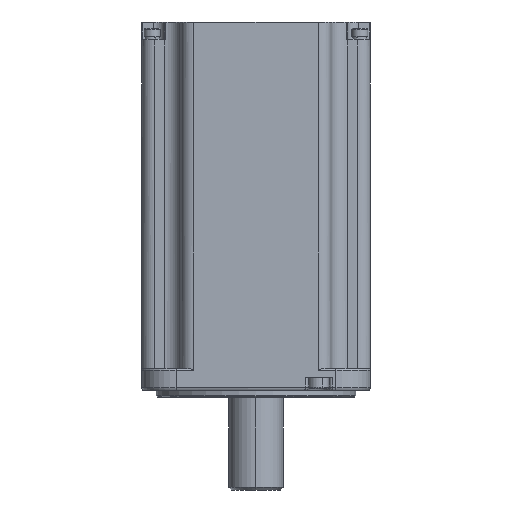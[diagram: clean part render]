
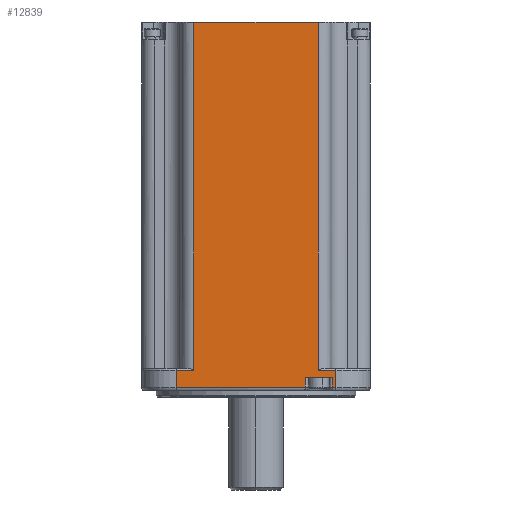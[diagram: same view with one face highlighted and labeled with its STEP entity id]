
A CAD part, front view. The second image highlights one B-rep face of the part: STEP entity #12839.
In plain terms, the highlighted planar face has unit normal (0, -1, 0).
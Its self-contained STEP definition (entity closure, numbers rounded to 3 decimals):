
#335 = DIRECTION ( 'NONE',  ( 0., 1., 0. ) ) ;
#1717 = VECTOR ( 'NONE', #25351, 1000. ) ;
#3555 = CARTESIAN_POINT ( 'NONE',  ( 28., -40., -7.5 ) ) ;
#3683 = VECTOR ( 'NONE', #23236, 1000. ) ;
#3937 = EDGE_CURVE ( 'NONE', #29714, #11195, #8120, .T. ) ;
#4179 = EDGE_CURVE ( 'NONE', #9064, #37598, #35245, .T. ) ;
#4230 = VERTEX_POINT ( 'NONE', #30922 ) ;
#4337 = CARTESIAN_POINT ( 'NONE',  ( 26.742, -40., -1. ) ) ;
#4672 = DIRECTION ( 'NONE',  ( -1., 0., 0. ) ) ;
#4988 = DIRECTION ( 'NONE',  ( 0., 0., -1. ) ) ;
#5925 = ORIENTED_EDGE ( 'NONE', *, *, #7381, .T. ) ;
#6054 = LINE ( 'NONE', #20454, #10509 ) ;
#6218 = CARTESIAN_POINT ( 'NONE',  ( 17.242, -40., -4. ) ) ;
#6500 = DIRECTION ( 'NONE',  ( 1., 0., 0. ) ) ;
#6847 = VECTOR ( 'NONE', #9194, 1000. ) ;
#7381 = EDGE_CURVE ( 'NONE', #17818, #17491, #30352, .T. ) ;
#7534 = ORIENTED_EDGE ( 'NONE', *, *, #21369, .T. ) ;
#7541 = CARTESIAN_POINT ( 'NONE',  ( -21.75, -40., 120.1 ) ) ;
#7948 = CARTESIAN_POINT ( 'NONE',  ( -40., -40., -1.5 ) ) ;
#8120 = LINE ( 'NONE', #4337, #3683 ) ;
#8160 = CARTESIAN_POINT ( 'NONE',  ( 28., -40., -1. ) ) ;
#8288 = VERTEX_POINT ( 'NONE', #6218 ) ;
#9064 = VERTEX_POINT ( 'NONE', #19712 ) ;
#9194 = DIRECTION ( 'NONE',  ( -1., 0., 0. ) ) ;
#9645 = ORIENTED_EDGE ( 'NONE', *, *, #20708, .T. ) ;
#10157 = VECTOR ( 'NONE', #28433, 1000. ) ;
#10339 = VECTOR ( 'NONE', #36515, 1000. ) ;
#10509 = VECTOR ( 'NONE', #4988, 1000. ) ;
#10648 = CARTESIAN_POINT ( 'NONE',  ( 21.75, -40., 120.1 ) ) ;
#11195 = VERTEX_POINT ( 'NONE', #39615 ) ;
#11276 = CARTESIAN_POINT ( 'NONE',  ( -21.75, -40., 120.1 ) ) ;
#11727 = EDGE_CURVE ( 'NONE', #30553, #25566, #12809, .T. ) ;
#12809 = LINE ( 'NONE', #7948, #10339 ) ;
#12839 = ADVANCED_FACE ( 'NONE', ( #26398 ), #19122, .F. ) ;
#14771 = LINE ( 'NONE', #40278, #6847 ) ;
#16353 = EDGE_CURVE ( 'NONE', #21874, #23212, #28082, .T. ) ;
#17491 = VERTEX_POINT ( 'NONE', #21128 ) ;
#17818 = VERTEX_POINT ( 'NONE', #3555 ) ;
#18188 = LINE ( 'NONE', #27659, #28517 ) ;
#18195 = DIRECTION ( 'NONE',  ( 0., 0., 1. ) ) ;
#18276 = DIRECTION ( 'NONE',  ( 1., 0., 0. ) ) ;
#18300 = EDGE_CURVE ( 'NONE', #25566, #9064, #36332, .T. ) ;
#18537 = LINE ( 'NONE', #28237, #1717 ) ;
#19122 = PLANE ( 'NONE',  #26151 ) ;
#19592 = CARTESIAN_POINT ( 'NONE',  ( -40., -40., -1.5 ) ) ;
#19647 = ORIENTED_EDGE ( 'NONE', *, *, #22738, .T. ) ;
#19712 = CARTESIAN_POINT ( 'NONE',  ( -28., -40., -7.5 ) ) ;
#20398 = VECTOR ( 'NONE', #28948, 1000. ) ;
#20454 = CARTESIAN_POINT ( 'NONE',  ( -21.75, -40., 83.8 ) ) ;
#20708 = EDGE_CURVE ( 'NONE', #11195, #17818, #36852, .T. ) ;
#21128 = CARTESIAN_POINT ( 'NONE',  ( 28., -40., -1.5 ) ) ;
#21369 = EDGE_CURVE ( 'NONE', #37598, #8288, #18537, .T. ) ;
#21862 = LINE ( 'NONE', #19592, #20398 ) ;
#21874 = VERTEX_POINT ( 'NONE', #10648 ) ;
#22185 = EDGE_LOOP ( 'NONE', ( #35232, #37723, #19647, #38810, #24618, #26082, #7534, #23462, #36890, #9645, #5925, #35662 ) ) ;
#22252 = CARTESIAN_POINT ( 'NONE',  ( -28., -40., -1. ) ) ;
#22738 = EDGE_CURVE ( 'NONE', #23212, #30553, #6054, .T. ) ;
#22998 = EDGE_CURVE ( 'NONE', #17491, #4230, #21862, .T. ) ;
#23212 = VERTEX_POINT ( 'NONE', #7541 ) ;
#23236 = DIRECTION ( 'NONE',  ( 0., 0., -1. ) ) ;
#23462 = ORIENTED_EDGE ( 'NONE', *, *, #38784, .F. ) ;
#23912 = DIRECTION ( 'NONE',  ( 0., 0., 1. ) ) ;
#23968 = VECTOR ( 'NONE', #23912, 1000. ) ;
#24618 = ORIENTED_EDGE ( 'NONE', *, *, #18300, .T. ) ;
#25291 = CARTESIAN_POINT ( 'NONE',  ( 26.25, -40., 83.8 ) ) ;
#25351 = DIRECTION ( 'NONE',  ( 0., 0., 1. ) ) ;
#25566 = VERTEX_POINT ( 'NONE', #31969 ) ;
#26082 = ORIENTED_EDGE ( 'NONE', *, *, #4179, .T. ) ;
#26151 = AXIS2_PLACEMENT_3D ( 'NONE', #25291, #335, #6500 ) ;
#26398 = FACE_OUTER_BOUND ( 'NONE', #22185, .T. ) ;
#27659 = CARTESIAN_POINT ( 'NONE',  ( 21.75, -40., 83.8 ) ) ;
#28082 = LINE ( 'NONE', #11276, #38498 ) ;
#28237 = CARTESIAN_POINT ( 'NONE',  ( 17.242, -40., -1. ) ) ;
#28433 = DIRECTION ( 'NONE',  ( 0., 0., -1. ) ) ;
#28438 = VECTOR ( 'NONE', #30341, 1000. ) ;
#28517 = VECTOR ( 'NONE', #18195, 1000. ) ;
#28948 = DIRECTION ( 'NONE',  ( -1., 0., 0. ) ) ;
#29167 = CARTESIAN_POINT ( 'NONE',  ( -21.75, -40., -1.5 ) ) ;
#29714 = VERTEX_POINT ( 'NONE', #31544 ) ;
#30341 = DIRECTION ( 'NONE',  ( 1., 0., 0. ) ) ;
#30352 = LINE ( 'NONE', #8160, #23968 ) ;
#30553 = VERTEX_POINT ( 'NONE', #29167 ) ;
#30922 = CARTESIAN_POINT ( 'NONE',  ( 21.75, -40., -1.5 ) ) ;
#31544 = CARTESIAN_POINT ( 'NONE',  ( 26.742, -40., -4. ) ) ;
#31969 = CARTESIAN_POINT ( 'NONE',  ( -28., -40., -1.5 ) ) ;
#35232 = ORIENTED_EDGE ( 'NONE', *, *, #39682, .T. ) ;
#35245 = LINE ( 'NONE', #39792, #39235 ) ;
#35662 = ORIENTED_EDGE ( 'NONE', *, *, #22998, .T. ) ;
#36332 = LINE ( 'NONE', #22252, #10157 ) ;
#36515 = DIRECTION ( 'NONE',  ( -1., 0., 0. ) ) ;
#36721 = CARTESIAN_POINT ( 'NONE',  ( 28., -40., -7.5 ) ) ;
#36852 = LINE ( 'NONE', #36721, #28438 ) ;
#36890 = ORIENTED_EDGE ( 'NONE', *, *, #3937, .T. ) ;
#37598 = VERTEX_POINT ( 'NONE', #38347 ) ;
#37723 = ORIENTED_EDGE ( 'NONE', *, *, #16353, .T. ) ;
#38347 = CARTESIAN_POINT ( 'NONE',  ( 17.242, -40., -7.5 ) ) ;
#38498 = VECTOR ( 'NONE', #4672, 1000. ) ;
#38784 = EDGE_CURVE ( 'NONE', #29714, #8288, #14771, .T. ) ;
#38810 = ORIENTED_EDGE ( 'NONE', *, *, #11727, .T. ) ;
#39235 = VECTOR ( 'NONE', #18276, 1000. ) ;
#39615 = CARTESIAN_POINT ( 'NONE',  ( 26.742, -40., -7.5 ) ) ;
#39682 = EDGE_CURVE ( 'NONE', #4230, #21874, #18188, .T. ) ;
#39792 = CARTESIAN_POINT ( 'NONE',  ( 17.242, -40., -7.5 ) ) ;
#40278 = CARTESIAN_POINT ( 'NONE',  ( 18.242, -40., -4. ) ) ;
